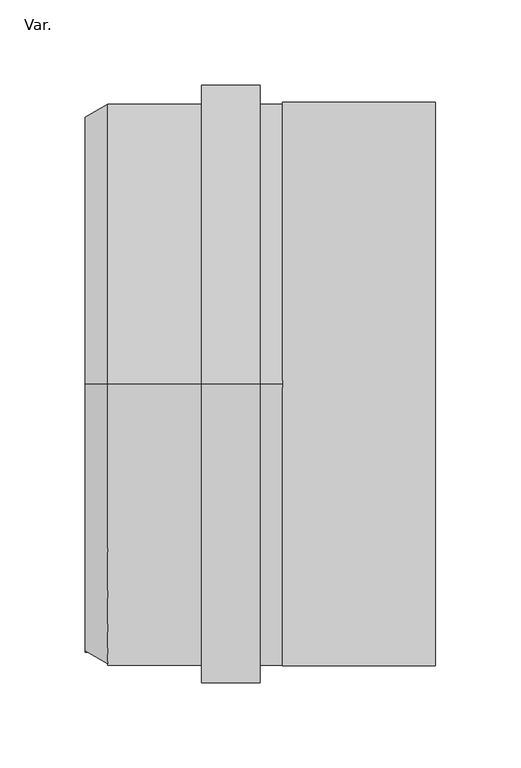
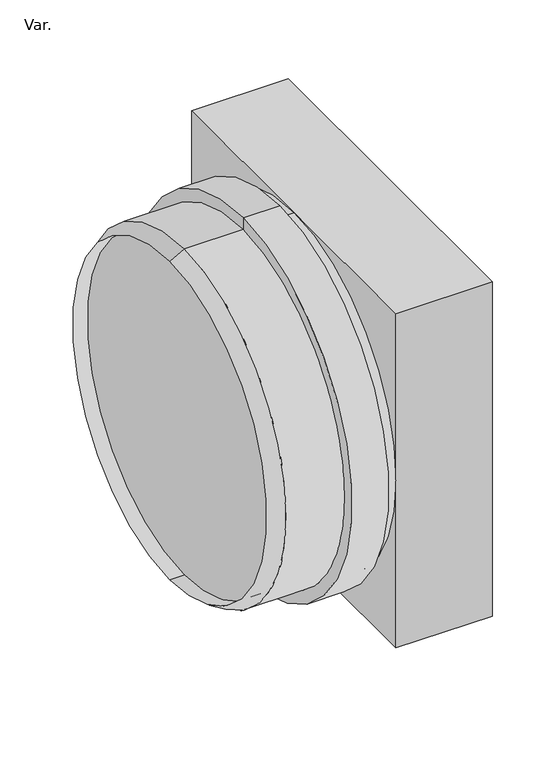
"""IFC4 building model written with IfcOpenShell, lengths in millimetres: pipe fitting geometry, NLRS-90-PIF_Wavin PVC Buitenriolering Straatkolkkop Deksel Dicht : Var.."""

import ifcopenshell
import ifcopenshell.guid

model = None  # the IFC model being written
_history = None  # IfcOwnerHistory: only IFC2X3 demands one
_inside = {}  # id of a spatial element -> (the spatial element, [elements in it])
_under = {}  # id of a project, library or spatial element -> (it, [spatial elements below it])
_declared = {}  # id of a project -> (the project, [libraries it declares])
_typed = {}  # id of a type object -> (the type object, [elements of that type])
_made_of = {}  # id of a material, layer set ... -> (it, [elements and type objects made of it])


def new_model(schema):
    """Start an empty IFC model of exactly this schema.

    Asked for "IFC4X3", IfcOpenShell would pick the latest addendum, in which some entities
    have other attributes; the version numbers below select the first issue.
    IFC2X3 requires an IfcOwnerHistory on every rooted entity: one is made here for all.
    """
    global model, _history
    if schema == "IFC4X3":
        model = ifcopenshell.file(schema_version=(4, 3, 0, 0))
    else:
        model = ifcopenshell.file(schema=schema)
    _inside.clear()
    _under.clear()
    _declared.clear()
    _typed.clear()
    _made_of.clear()
    _history = None
    if model.schema == "IFC2X3":
        org = make("IfcOrganization", Name="unknown")
        user = make(
            "IfcPersonAndOrganization",
            ThePerson=make("IfcPerson", FamilyName="unknown"),
            TheOrganization=org,
        )
        app = make(
            "IfcApplication",
            ApplicationDeveloper=org,
            Version="unknown",
            ApplicationFullName="unknown",
            ApplicationIdentifier="unknown",
        )
        _history = make(
            "IfcOwnerHistory",
            OwningUser=user,
            OwningApplication=app,
            ChangeAction="ADDED",
            CreationDate=0,
        )
    return model


def make(cls, **values):
    """One entity of the class cls with the attributes given. An attribute that is None is left unset."""
    return model.create_entity(
        cls, **{name: value for name, value in values.items() if value is not None}
    )


def rooted(cls, **values):
    """An entity with a GlobalId (a new one), such as an element, a storey or a relation."""
    return make(cls, GlobalId=ifcopenshell.guid.new(), OwnerHistory=_history, **values)


def si_unit(unit_type, name, prefix=None):
    """IfcSIUnit, for example si_unit("LENGTHUNIT", "METRE", prefix="MILLI")."""
    return make("IfcSIUnit", UnitType=unit_type, Prefix=prefix, Name=name)


def assignment(units):
    """IfcUnitAssignment: the units of a project."""
    return None if units is None else make("IfcUnitAssignment", Units=units)


def point(xyz):
    """IfcCartesianPoint."""
    return None if xyz is None else make("IfcCartesianPoint", Coordinates=xyz)


def direction(xyz):
    """IfcDirection."""
    return None if xyz is None else make("IfcDirection", DirectionRatios=xyz)


def frame(location, z_axis=None, x_axis=None):
    """IfcAxis2Placement3D, a coordinate frame: its origin and axes. An axis left out is left unset."""
    return make(
        "IfcAxis2Placement3D",
        Location=point(location),
        Axis=direction(z_axis),
        RefDirection=direction(x_axis),
    )


def frame_2d(location, x_axis=None):
    """IfcAxis2Placement2D, a coordinate frame in the plane: its origin and x axis."""
    return make(
        "IfcAxis2Placement2D", Location=point(location), RefDirection=direction(x_axis)
    )


def origin():
    """The frame at (0, 0, 0) with its axes left unset."""
    return frame((0.0, 0.0, 0.0))


def origin_2d():
    """The frame at (0, 0) in the plane with its x axis left unset."""
    return frame_2d((0.0, 0.0))


def place(relative_to, where):
    """IfcLocalPlacement: puts the frame where relative to a parent placement (None: the world)."""
    return make(
        "IfcLocalPlacement", PlacementRelTo=relative_to, RelativePlacement=where
    )


def context(
    kind, dimensions, precision=None, world=None, true_north=None, identifier=None
):
    """IfcGeometricRepresentationContext, for example the 3D "Model" context."""
    return make(
        "IfcGeometricRepresentationContext",
        ContextIdentifier=identifier,
        ContextType=kind,
        CoordinateSpaceDimension=dimensions,
        Precision=precision,
        WorldCoordinateSystem=world,
        TrueNorth=true_north,
    )


def project(units=None, contexts=None):
    """IfcProject with its units and contexts."""
    return rooted(
        "IfcProject",
        Name="project",
        RepresentationContexts=contexts,
        UnitsInContext=assignment(units),
    )


def spatial(cls, under=None, at=None, **own):
    """A site, building, storey or space (cls), placed at a placement, below another one or the project."""
    s = rooted(cls, ObjectPlacement=at, **own)
    if under is not None:
        _under.setdefault(under.id(), (under, []))[1].append(s)
    return s


def polyline(points):
    """IfcPolyline through the points."""
    return make("IfcPolyline", Points=[point(p) for p in points])


def circle_curve(where, radius):
    """IfcCircle in the frame where."""
    return make("IfcCircle", Position=where, Radius=radius)


def trimmed(basis, trim1, trim2, sense, master):
    """IfcTrimmedCurve: the piece of a basis curve between two trims."""
    return make(
        "IfcTrimmedCurve",
        BasisCurve=basis,
        Trim1=trim1,
        Trim2=trim2,
        SenseAgreement=sense,
        MasterRepresentation=master,
    )


def segment(curve, same_sense, transition):
    """IfcCompositeCurveSegment."""
    return make(
        "IfcCompositeCurveSegment",
        Transition=transition,
        SameSense=same_sense,
        ParentCurve=curve,
    )


def composite_curve(segments, self_intersect=None):
    """IfcCompositeCurve: segments joined end to end."""
    return make("IfcCompositeCurve", Segments=segments, SelfIntersect=self_intersect)


def outline(outer, holes=None, kind="AREA"):
    """IfcArbitraryClosedProfileDef: a profile drawn as a closed curve; with holes, ...WithVoids."""
    if holes is None:
        return make("IfcArbitraryClosedProfileDef", ProfileType=kind, OuterCurve=outer)
    return make(
        "IfcArbitraryProfileDefWithVoids",
        ProfileType=kind,
        OuterCurve=outer,
        InnerCurves=holes,
    )


def extrude(swept, where, along, depth):
    """IfcExtrudedAreaSolid: the profile swept, set in the frame where, extruded along a direction by depth."""
    return make(
        "IfcExtrudedAreaSolid",
        SweptArea=swept,
        Position=where,
        ExtrudedDirection=direction(along),
        Depth=depth,
    )


def faces_of(points, faces, orient=None, outer=None):
    """IfcFace entities. A face is a list of loops; a loop is a list of indices into points, from 0.

    orient and outer hold one flag for each loop. By default every Orientation is true, the
    first loop of a face is its IfcFaceOuterBound and the others are IfcFaceBound.
    """
    made = []
    for i, loops in enumerate(faces):
        bounds = []
        for j, loop in enumerate(loops):
            is_outer = j == 0 if outer is None else outer[i][j]
            bounds.append(
                make(
                    "IfcFaceOuterBound" if is_outer else "IfcFaceBound",
                    Bound=make("IfcPolyLoop", Polygon=[points[k] for k in loop]),
                    Orientation=True if orient is None else orient[i][j],
                )
            )
        made.append(make("IfcFace", Bounds=bounds))
    return made


def faceted_brep(points, faces, orient=None, outer=None, voids=None):
    """IfcFacetedBrep: a solid bounded by flat faces; with voids (closed shells), ...WithVoids."""
    shared = [point(p) for p in points]
    hull = make("IfcClosedShell", CfsFaces=faces_of(shared, faces, orient, outer))
    if voids is None:
        return make("IfcFacetedBrep", Outer=hull)
    return make(
        "IfcFacetedBrepWithVoids",
        Outer=hull,
        Voids=[
            make(cls, CfsFaces=faces_of(shared, fs, o, b)) for cls, fs, o, b in voids
        ],
    )


def shape(context_of_items, identifier, shape_type, items):
    """IfcShapeRepresentation: the items that make up one representation, for example the "Body"."""
    return make(
        "IfcShapeRepresentation",
        ContextOfItems=context_of_items,
        RepresentationIdentifier=identifier,
        RepresentationType=shape_type,
        Items=items,
    )


def source(mapping_origin, context_of_items, identifier, shape_type, items):
    """IfcRepresentationMap: a shape defined once, which mapped items show again and again."""
    return make(
        "IfcRepresentationMap",
        MappingOrigin=mapping_origin,
        MappedRepresentation=shape(context_of_items, identifier, shape_type, items),
    )


def transform(
    local_origin,
    x_axis=None,
    y_axis=None,
    z_axis=None,
    scale=None,
    scale2=None,
    scale3=None,
    uniform=True,
):
    """IfcCartesianTransformationOperator3D, or its non-uniform kind. x_axis, y_axis, z_axis: its Axis1, 2, 3."""
    if uniform:
        return make(
            "IfcCartesianTransformationOperator3D",
            Axis1=direction(x_axis),
            Axis2=direction(y_axis),
            LocalOrigin=point(local_origin),
            Scale=scale,
            Axis3=direction(z_axis),
        )
    return make(
        "IfcCartesianTransformationOperator3DnonUniform",
        Axis1=direction(x_axis),
        Axis2=direction(y_axis),
        LocalOrigin=point(local_origin),
        Scale=scale,
        Axis3=direction(z_axis),
        Scale2=scale2,
        Scale3=scale3,
    )


def mapped(mapping_source, mapping_target):
    """IfcMappedItem: shows the shape of a source again, moved by a transform."""
    return make(
        "IfcMappedItem", MappingSource=mapping_source, MappingTarget=mapping_target
    )


def made_of(thing, what):
    """Note that an element or type object is made of a material, layer set ...; save() writes the relation."""
    if what is not None:
        _made_of.setdefault(what.id(), (what, []))[1].append(thing)
    return thing


def element(
    cls,
    number,
    at=None,
    inside=None,
    cuts=None,
    type_object=None,
    material=None,
    context=None,
    identifier="Body",
    shape_type=None,
    held_by="IfcProductDefinitionShape",
    body=None,
    shapes=None,
    **own,
):
    """One element of the class cls, such as IfcWall. Its Tag is "e" and its number.

    at: its placement. inside: the storey or other place that contains it. cuts: it is an
    opening in that element (IfcRelVoidsElement). A single representation is given by context,
    identifier, shape_type and body (its items); several are given by shapes. held_by: the class
    of the entity that holds the representations. save() writes the other relations.
    """
    e = rooted(cls, Tag="e%d" % number, ObjectPlacement=at, **own)
    if body is not None:
        shapes = [shape(context, identifier, shape_type, body)]
    if shapes is not None:
        e.Representation = make(held_by, Representations=shapes)
    if inside is not None:
        _inside.setdefault(inside.id(), (inside, []))[1].append(e)
    if cuts is not None:
        rooted(
            "IfcRelVoidsElement", RelatingBuildingElement=cuts, RelatedOpeningElement=e
        )
    if type_object is not None:
        _typed.setdefault(type_object.id(), (type_object, []))[1].append(e)
    return made_of(e, material)


def aggregate(whole, parts):
    """IfcRelAggregates: a whole, such as a stair, and the parts it consists of."""
    return rooted("IfcRelAggregates", RelatingObject=whole, RelatedObjects=parts)


def save(model, path):
    """Write the relations noted so far, then the file.

    IfcRelAggregates (storeys below a building ...), IfcRelContainedInSpatialStructure (elements
    in a storey), IfcRelDefinesByType, IfcRelAssociatesMaterial and IfcRelDeclares: one each for
    every whole, place, type object, material and project.
    """
    for whole, parts in _under.values():
        aggregate(whole, parts)
    for where, things in _inside.values():
        rooted(
            "IfcRelContainedInSpatialStructure",
            RelatedElements=things,
            RelatingStructure=where,
        )
    for kind, things in _typed.values():
        rooted("IfcRelDefinesByType", RelatedObjects=things, RelatingType=kind)
    for what, things in _made_of.values():
        rooted("IfcRelAssociatesMaterial", RelatedObjects=things, RelatingMaterial=what)
    for by, libraries in _declared.values():
        rooted("IfcRelDeclares", RelatingContext=by, RelatedDefinitions=libraries)
    model.write(path)


def plane_surface(at):
    """IfcPlane: the flat surface through the origin of the frame at, square to its z axis."""
    return make("IfcPlane", Position=at)


def cylinder_surface(at, radius):
    """IfcCylindricalSurface: all points at the distance radius from the z axis of the frame at."""
    return make("IfcCylindricalSurface", Position=at, Radius=radius)


def revolved_surface(curve, axis_point, axis_direction):
    """IfcSurfaceOfRevolution: the curve turned about the line through axis_point along axis_direction."""
    return make(
        "IfcSurfaceOfRevolution",
        SweptCurve=make("IfcArbitraryOpenProfileDef", ProfileType="CURVE", Curve=curve),
        AxisPosition=make("IfcAxis1Placement", Location=point(axis_point), Axis=direction(axis_direction)),
    )


def advanced_brep(points, edges, surfaces, faces):
    """IfcAdvancedBrep: a solid bounded by faces that lie on surfaces and meet in shared edges.

    An edge is (start, end): straight between two places in points (the first is 0);
    or (start, end, curve); or (start, end, curve, False) where it runs against its curve.
    A face is (place in surfaces, loops), or (place, loops, False) where it looks against
    its surface's normal. A loop lists edges by number (the first is 1), with a minus sign
    where the edge is run from its end to its start. The first loop is the outer one.
    """
    corners = [point(p) for p in points]
    vertices = [make("IfcVertexPoint", VertexGeometry=c) for c in corners]
    made = []
    for start, end, *more in edges:
        made.append(
            make(
                "IfcEdgeCurve",
                EdgeStart=vertices[start],
                EdgeEnd=vertices[end],
                EdgeGeometry=more[0] if more else make("IfcPolyline", Points=[corners[start], corners[end]]),
                SameSense=more[1] if len(more) > 1 else True,
            )
        )
    hull = []
    for where, loops, *sense in faces:
        bounds = []
        for j, loop in enumerate(loops):
            ring = [make("IfcOrientedEdge", EdgeElement=made[abs(k) - 1], Orientation=k > 0) for k in loop]
            bounds.append(
                make(
                    "IfcFaceOuterBound" if j == 0 else "IfcFaceBound",
                    Bound=make("IfcEdgeLoop", EdgeList=ring),
                    Orientation=True,
                )
            )
        hull.append(make("IfcAdvancedFace", Bounds=bounds, FaceSurface=surfaces[where], SameSense=sense[0] if sense else True))
    return make("IfcAdvancedBrep", Outer=make("IfcClosedShell", CfsFaces=hull))


def var_7b45dea3(model_context):
    return source(origin(), model_context, "Body", "SolidModel", [
        advanced_brep(
        [(55.1, 0.0, 176.55), (55.1, 0.0, -176.55), (55.1, 0.0, -165.2), (55.1, 0.0, 165.2), (89.7, 0.0, 176.55), (89.7, 0.0, -176.55), (89.7, 0.0, 165.2), (89.7, 0.0, -165.2), (102.8, 0.0, 165.2), (102.8, 0.0, -165.2), (102.8, 0.0, 157.5), (102.8, 0.0, -157.5), (-13.3367912, 0.0, 157.5), (-13.3367912, 0.0, -157.5), (0.0, 0.0, -165.2), (0.0, 0.0, 165.2)],
        [
            (0, 1, circle_curve(frame((55.1, 0.0, 0.0), z_axis=(-1.0, 0.0, 0.0), x_axis=(0.0, 0.0, -1.0)), 176.55)),
            (1, 2),
            (2, 3, circle_curve(frame((55.1, 0.0, 0.0), z_axis=(1.0, 0.0, 0.0), x_axis=(0.0, 0.0, -1.0)), 165.2)),
            (3, 0),
            (1, 0, circle_curve(frame((55.1, 0.0, 0.0), z_axis=(-1.0, 0.0, 0.0), x_axis=(0.0, 0.0, -1.0)), 176.55)),
            (3, 2, circle_curve(frame((55.1, 0.0, 0.0), z_axis=(1.0, 0.0, 0.0), x_axis=(0.0, 0.0, -1.0)), 165.2)),
            (4, 5, circle_curve(frame((89.7, 0.0, 0.0), z_axis=(-1.0, 0.0, 0.0), x_axis=(0.0, 0.0, -1.0)), 176.55)),
            (5, 1),
            (0, 4),
            (5, 4, circle_curve(frame((89.7, 0.0, 0.0), z_axis=(-1.0, 0.0, 0.0), x_axis=(0.0, 0.0, -1.0)), 176.55)),
            (6, 7, circle_curve(frame((89.7, 0.0, 0.0), z_axis=(-1.0, 0.0, 0.0), x_axis=(0.0, 0.0, -1.0)), 165.2)),
            (7, 5),
            (4, 6),
            (7, 6, circle_curve(frame((89.7, 0.0, 0.0), z_axis=(-1.0, 0.0, 0.0), x_axis=(0.0, 0.0, -1.0)), 165.2)),
            (8, 9, circle_curve(frame((102.8, 0.0, 0.0), z_axis=(-1.0, 0.0, 0.0), x_axis=(0.0, 0.0, -1.0)), 165.2)),
            (9, 7),
            (6, 8),
            (9, 8, circle_curve(frame((102.8, 0.0, 0.0), z_axis=(-1.0, 0.0, 0.0), x_axis=(0.0, 0.0, -1.0)), 165.2)),
            (10, 11, circle_curve(frame((102.8, 0.0, 0.0), z_axis=(-1.0, 0.0, 0.0), x_axis=(0.0, 0.0, -1.0)), 157.5)),
            (11, 9),
            (8, 10),
            (11, 10, circle_curve(frame((102.8, 0.0, 0.0), z_axis=(-1.0, 0.0, 0.0), x_axis=(0.0, 0.0, -1.0)), 157.5)),
            (12, 13, circle_curve(frame((-13.3367912, 0.0, 0.0), z_axis=(-1.0, 0.0, 0.0), x_axis=(0.0, 0.0, -1.0)), 157.5)),
            (13, 11),
            (10, 12),
            (13, 12, circle_curve(frame((-13.3367912, 0.0, 0.0), z_axis=(-1.0, 0.0, 0.0), x_axis=(0.0, 0.0, -1.0)), 157.5)),
            (2, 14),
            (14, 15, circle_curve(frame((0.0, 0.0, 0.0), z_axis=(1.0, 0.0, 0.0), x_axis=(0.0, 0.0, -1.0)), 165.2)),
            (15, 3),
            (15, 14, circle_curve(frame((0.0, 0.0, 0.0), z_axis=(1.0, 0.0, 0.0), x_axis=(0.0, 0.0, -1.0)), 165.2)),
            (14, 13),
            (12, 15),
        ],
        [
            plane_surface(frame((55.1, 0.0, 0.0), z_axis=(-1.0, 0.0, 0.0), x_axis=(0.0, 0.0, -1.0))),
            cylinder_surface(frame((-1909.4137428, 0.0, 0.0), z_axis=(1.0, 0.0, 0.0), x_axis=(0.0, 0.0, -1.0)), 176.55),
            plane_surface(frame((89.7, 0.0, 0.0), z_axis=(1.0, 0.0, 0.0), x_axis=(0.0, 0.0, -1.0))),
            cylinder_surface(frame((-1909.4137428, 0.0, 0.0), z_axis=(1.0, 0.0, 0.0), x_axis=(0.0, 0.0, -1.0)), 165.2),
            plane_surface(frame((102.8, 0.0, 0.0), z_axis=(1.0, 0.0, 0.0), x_axis=(0.0, 0.0, -1.0))),
            revolved_surface(polyline([(102.79999999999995, 0.0, -157.5), (-13.336791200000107, 0.0, -157.5)]), (-1909.4137428, 0.0, 0.0), (1.0, 0.0, 0.0)),
            revolved_surface(polyline([(-13.3367912, 0.0, -157.5), (0.0, 0.0, -165.2)]), (-1909.4137428, 0.0, 0.0), (1.0, 0.0, 0.0)),
        ],
        [
            (0, [[1, 2, 3, 4]]),
            (0, [[5, -4, 6, -2]]),
            (1, [[7, 8, -1, 9]]),
            (1, [[10, -9, -5, -8]]),
            (2, [[11, 12, -7, 13]]),
            (2, [[14, -13, -10, -12]]),
            (3, [[15, 16, -11, 17]]),
            (3, [[18, -17, -14, -16]]),
            (4, [[19, 20, -15, 21]]),
            (4, [[22, -21, -18, -20]]),
            (5, [[23, 24, -19, 25]]),
            (5, [[26, -25, -22, -24]]),
            (3, [[-3, 27, 28, 29]]),
            (3, [[-6, -29, 30, -27]]),
            (6, [[-28, 31, -23, 32]]),
            (6, [[-30, -32, -26, -31]]),
        ],
    ),
        extrude(outline(composite_curve([segment(trimmed(circle_curve(origin_2d(), 157.5), [point((0.0, 157.5))], [point((0.0, -157.5))], False, "CARTESIAN"), True, "CONTINUOUS"), segment(trimmed(circle_curve(origin_2d(), 157.5), [point((0.0, -157.5))], [point((0.0, 157.5))], False, "CARTESIAN"), True, "CONTINUOUS")], self_intersect=False)), frame((0.0, 0.0, 0.0), z_axis=(1.0, 0.0, 0.0), x_axis=(0.0, 1.0, 0.0)), (0.0, 0.0, 1.0), 102.8),
        faceted_brep([(192.8, 165.5, -165.5), (192.8, 165.5, 165.5), (192.8, -165.5, 165.5), (192.8, -165.5, -165.5), (192.8, 155.5, 145.5), (192.8, 155.5, -145.5), (192.8, 125.5, -145.5), (192.8, 125.5, -155.5), (192.8, -155.5, -155.5), (192.8, -155.5, 155.5), (192.8, 125.5, 155.5), (192.8, 125.5, 145.5), (102.8, 165.5, -165.5), (102.8, -165.5, -165.5), (102.8, -165.5, 165.5), (102.8, 165.5, 165.5), (184.8383576, 155.5, -145.5), (184.8383576, 155.5, 145.5), (184.8383576, 125.5, 145.5), (184.8383576, 125.5, 155.5), (184.8383576, -155.5, 155.5), (184.8383576, -155.5, -155.5), (184.8383576, 125.5, -155.5), (184.8383576, 125.5, -145.5)], [[[0, 1, 2, 3], [4, 5, 6, 7, 8, 9, 10, 11]], [[12, 13, 14, 15]], [[1, 0, 12, 15]], [[2, 1, 15, 14]], [[3, 2, 14, 13]], [[0, 3, 13, 12]], [[16, 17, 18, 19, 20, 21, 22, 23]], [[17, 16, 5, 4]], [[18, 17, 4, 11]], [[19, 18, 11, 10]], [[20, 19, 10, 9]], [[21, 20, 9, 8]], [[22, 21, 8, 7]], [[23, 22, 7, 6]], [[16, 23, 6, 5]]]),
    ])


if __name__ == "__main__":
    model = new_model("IFC4")
    model_context = context("Model", 3, world=origin())
    ifc_project = project(units=[si_unit("LENGTHUNIT", "METRE", prefix="MILLI")], contexts=[model_context])
    site = spatial("IfcSite", under=ifc_project)
    building = spatial("IfcBuilding", under=site)
    placement = place(None, origin())
    var_shape = var_7b45dea3(model_context)
    element("IfcPipeFitting", 1, ObjectType="NLRS-90-PIF_Wavin PVC Buitenriolering Straatkolkkop Deksel Dicht : Var.", at=placement, inside=building, context=model_context, shape_type="MappedRepresentation", body=[
        mapped(var_shape, transform((0.0, 0.0, 0.0), x_axis=(1.0, 0.0, 0.0), y_axis=(0.0, 1.0, 0.0), z_axis=(0.0, 0.0, 1.0))),
    ])
    save(model, "model.ifc")
